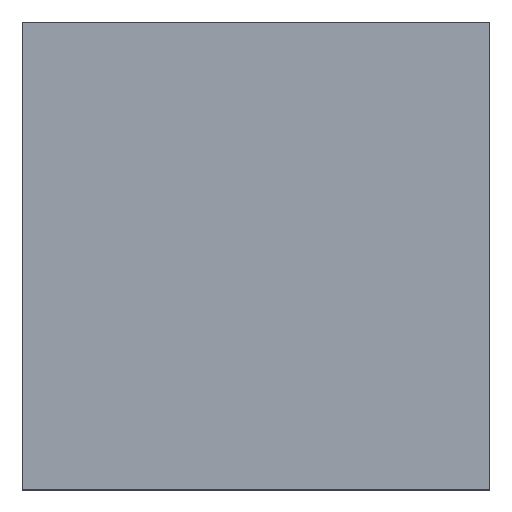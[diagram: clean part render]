
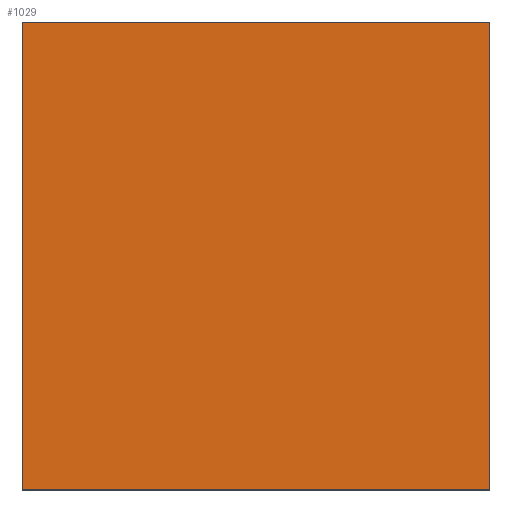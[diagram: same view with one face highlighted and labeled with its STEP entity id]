
A CAD part, top view. The second image highlights one B-rep face of the part: STEP entity #1029.
In plain terms, the highlighted planar face has unit normal (0, 0, 1).
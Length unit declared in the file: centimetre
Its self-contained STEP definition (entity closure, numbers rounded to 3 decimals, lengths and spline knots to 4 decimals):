
#9 = VERTEX_POINT ( 'NONE', #495 ) ;
#14 = VECTOR ( 'NONE', #1090, 100. ) ;
#17 = DIRECTION ( 'NONE',  ( -1., 0., 0. ) ) ;
#19 = EDGE_CURVE ( 'NONE', #9, #1142, #941, .T. ) ;
#123 = CARTESIAN_POINT ( 'NONE',  ( 0., 1000., 1000. ) ) ;
#134 = ORIENTED_EDGE ( 'NONE', *, *, #179, .T. ) ;
#150 = ORIENTED_EDGE ( 'NONE', *, *, #1450, .T. ) ;
#179 = EDGE_CURVE ( 'NONE', #779, #9, #275, .T. ) ;
#197 = CARTESIAN_POINT ( 'NONE',  ( 1000., 1000., 1000. ) ) ;
#200 = ORIENTED_EDGE ( 'NONE', *, *, #19, .T. ) ;
#212 = LINE ( 'NONE', #1353, #966 ) ;
#275 = LINE ( 'NONE', #197, #14 ) ;
#442 = EDGE_LOOP ( 'NONE', ( #150, #1322, #134, #200 ) ) ;
#495 = CARTESIAN_POINT ( 'NONE',  ( 1000., 1000., 1000. ) ) ;
#653 = DIRECTION ( 'NONE',  ( 0., 0., 1. ) ) ;
#740 = CARTESIAN_POINT ( 'NONE',  ( 1000., 0., 1000. ) ) ;
#755 = DIRECTION ( 'NONE',  ( 1., 0., 0. ) ) ;
#759 = CARTESIAN_POINT ( 'NONE',  ( 0., 0., 1000. ) ) ;
#779 = VERTEX_POINT ( 'NONE', #740 ) ;
#805 = LINE ( 'NONE', #928, #923 ) ;
#877 = DIRECTION ( 'NONE',  ( 0., -1., 0. ) ) ;
#901 = VERTEX_POINT ( 'NONE', #1192 ) ;
#906 = PLANE ( 'NONE',  #1224 ) ;
#923 = VECTOR ( 'NONE', #1144, 100. ) ;
#928 = CARTESIAN_POINT ( 'NONE',  ( 0., 0., 1000. ) ) ;
#941 = LINE ( 'NONE', #1154, #1145 ) ;
#966 = VECTOR ( 'NONE', #877, 100. ) ;
#1029 = ADVANCED_FACE ( 'NONE', ( #1107 ), #906, .T. ) ;
#1090 = DIRECTION ( 'NONE',  ( 0., 1., 0. ) ) ;
#1107 = FACE_OUTER_BOUND ( 'NONE', #442, .T. ) ;
#1142 = VERTEX_POINT ( 'NONE', #123 ) ;
#1144 = DIRECTION ( 'NONE',  ( 1., 0., 0. ) ) ;
#1145 = VECTOR ( 'NONE', #17, 100. ) ;
#1154 = CARTESIAN_POINT ( 'NONE',  ( 0., 1000., 1000. ) ) ;
#1192 = CARTESIAN_POINT ( 'NONE',  ( 0., 0., 1000. ) ) ;
#1216 = EDGE_CURVE ( 'NONE', #901, #779, #805, .T. ) ;
#1224 = AXIS2_PLACEMENT_3D ( 'NONE', #759, #653, #755 ) ;
#1322 = ORIENTED_EDGE ( 'NONE', *, *, #1216, .T. ) ;
#1353 = CARTESIAN_POINT ( 'NONE',  ( 0., 1000., 1000. ) ) ;
#1450 = EDGE_CURVE ( 'NONE', #1142, #901, #212, .T. ) ;
